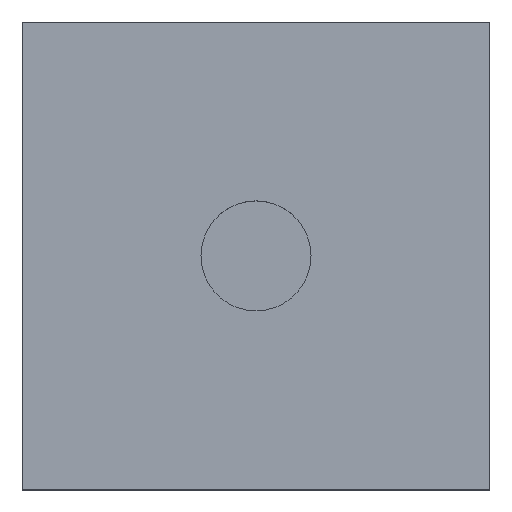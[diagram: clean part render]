
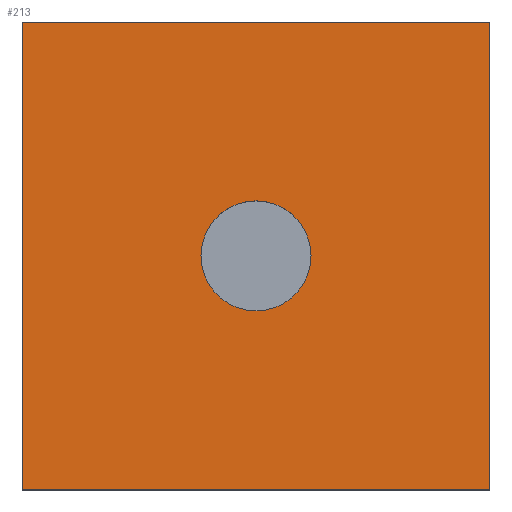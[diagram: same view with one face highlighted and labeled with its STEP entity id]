
A CAD part, top view. The second image highlights one B-rep face of the part: STEP entity #213.
In plain terms, the highlighted planar face has unit normal (0, 0, 1).
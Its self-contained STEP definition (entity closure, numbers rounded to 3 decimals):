
#24 = VERTEX_POINT('',#25);
#25 = CARTESIAN_POINT('',(-4.25,-4.25,3.));
#32 = PLANE('',#33);
#33 = AXIS2_PLACEMENT_3D('',#34,#35,#36);
#34 = CARTESIAN_POINT('',(-4.25,-4.25,0.));
#35 = DIRECTION('',(1.,0.,-0.));
#36 = DIRECTION('',(0.,0.,1.));
#44 = PLANE('',#45);
#45 = AXIS2_PLACEMENT_3D('',#46,#47,#48);
#46 = CARTESIAN_POINT('',(-4.25,-4.25,0.));
#47 = DIRECTION('',(-0.,1.,0.));
#48 = DIRECTION('',(0.,0.,1.));
#85 = VERTEX_POINT('',#86);
#86 = CARTESIAN_POINT('',(-4.25,4.25,3.));
#100 = PLANE('',#101);
#101 = AXIS2_PLACEMENT_3D('',#102,#103,#104);
#102 = CARTESIAN_POINT('',(-4.25,4.25,0.));
#103 = DIRECTION('',(-0.,1.,0.));
#104 = DIRECTION('',(0.,0.,1.));
#112 = EDGE_CURVE('',#24,#85,#113,.T.);
#113 = SURFACE_CURVE('',#114,(#118,#125),.PCURVE_S1.);
#114 = LINE('',#115,#116);
#115 = CARTESIAN_POINT('',(-4.25,-4.25,3.));
#116 = VECTOR('',#117,1.);
#117 = DIRECTION('',(-0.,1.,0.));
#118 = PCURVE('',#32,#119);
#119 = DEFINITIONAL_REPRESENTATION('',(#120),#124);
#120 = LINE('',#121,#122);
#121 = CARTESIAN_POINT('',(3.,0.));
#122 = VECTOR('',#123,1.);
#123 = DIRECTION('',(0.,-1.));
#124 = ( GEOMETRIC_REPRESENTATION_CONTEXT(2) 
PARAMETRIC_REPRESENTATION_CONTEXT() REPRESENTATION_CONTEXT('2D SPACE',''
  ) );
#125 = PCURVE('',#126,#131);
#126 = PLANE('',#127);
#127 = AXIS2_PLACEMENT_3D('',#128,#129,#130);
#128 = CARTESIAN_POINT('',(-4.25,-4.25,3.));
#129 = DIRECTION('',(0.,0.,1.));
#130 = DIRECTION('',(1.,0.,-0.));
#131 = DEFINITIONAL_REPRESENTATION('',(#132),#136);
#132 = LINE('',#133,#134);
#133 = CARTESIAN_POINT('',(0.,0.));
#134 = VECTOR('',#135,1.);
#135 = DIRECTION('',(0.,1.));
#136 = ( GEOMETRIC_REPRESENTATION_CONTEXT(2) 
PARAMETRIC_REPRESENTATION_CONTEXT() REPRESENTATION_CONTEXT('2D SPACE',''
  ) );
#165 = EDGE_CURVE('',#24,#166,#168,.T.);
#166 = VERTEX_POINT('',#167);
#167 = CARTESIAN_POINT('',(4.25,-4.25,3.));
#168 = SURFACE_CURVE('',#169,(#173,#180),.PCURVE_S1.);
#169 = LINE('',#170,#171);
#170 = CARTESIAN_POINT('',(-4.25,-4.25,3.));
#171 = VECTOR('',#172,1.);
#172 = DIRECTION('',(1.,0.,-0.));
#173 = PCURVE('',#44,#174);
#174 = DEFINITIONAL_REPRESENTATION('',(#175),#179);
#175 = LINE('',#176,#177);
#176 = CARTESIAN_POINT('',(3.,0.));
#177 = VECTOR('',#178,1.);
#178 = DIRECTION('',(0.,1.));
#179 = ( GEOMETRIC_REPRESENTATION_CONTEXT(2) 
PARAMETRIC_REPRESENTATION_CONTEXT() REPRESENTATION_CONTEXT('2D SPACE',''
  ) );
#180 = PCURVE('',#126,#181);
#181 = DEFINITIONAL_REPRESENTATION('',(#182),#186);
#182 = LINE('',#183,#184);
#183 = CARTESIAN_POINT('',(0.,0.));
#184 = VECTOR('',#185,1.);
#185 = DIRECTION('',(1.,0.));
#186 = ( GEOMETRIC_REPRESENTATION_CONTEXT(2) 
PARAMETRIC_REPRESENTATION_CONTEXT() REPRESENTATION_CONTEXT('2D SPACE',''
  ) );
#202 = PLANE('',#203);
#203 = AXIS2_PLACEMENT_3D('',#204,#205,#206);
#204 = CARTESIAN_POINT('',(4.25,-4.25,0.));
#205 = DIRECTION('',(1.,0.,-0.));
#206 = DIRECTION('',(0.,0.,1.));
#213 = ADVANCED_FACE('',(#214,#262),#126,.T.);
#214 = FACE_BOUND('',#215,.T.);
#215 = EDGE_LOOP('',(#216,#217,#218,#241));
#216 = ORIENTED_EDGE('',*,*,#112,.F.);
#217 = ORIENTED_EDGE('',*,*,#165,.T.);
#218 = ORIENTED_EDGE('',*,*,#219,.T.);
#219 = EDGE_CURVE('',#166,#220,#222,.T.);
#220 = VERTEX_POINT('',#221);
#221 = CARTESIAN_POINT('',(4.25,4.25,3.));
#222 = SURFACE_CURVE('',#223,(#227,#234),.PCURVE_S1.);
#223 = LINE('',#224,#225);
#224 = CARTESIAN_POINT('',(4.25,-4.25,3.));
#225 = VECTOR('',#226,1.);
#226 = DIRECTION('',(-0.,1.,0.));
#227 = PCURVE('',#126,#228);
#228 = DEFINITIONAL_REPRESENTATION('',(#229),#233);
#229 = LINE('',#230,#231);
#230 = CARTESIAN_POINT('',(8.5,0.));
#231 = VECTOR('',#232,1.);
#232 = DIRECTION('',(0.,1.));
#233 = ( GEOMETRIC_REPRESENTATION_CONTEXT(2) 
PARAMETRIC_REPRESENTATION_CONTEXT() REPRESENTATION_CONTEXT('2D SPACE',''
  ) );
#234 = PCURVE('',#202,#235);
#235 = DEFINITIONAL_REPRESENTATION('',(#236),#240);
#236 = LINE('',#237,#238);
#237 = CARTESIAN_POINT('',(3.,0.));
#238 = VECTOR('',#239,1.);
#239 = DIRECTION('',(0.,-1.));
#240 = ( GEOMETRIC_REPRESENTATION_CONTEXT(2) 
PARAMETRIC_REPRESENTATION_CONTEXT() REPRESENTATION_CONTEXT('2D SPACE',''
  ) );
#241 = ORIENTED_EDGE('',*,*,#242,.F.);
#242 = EDGE_CURVE('',#85,#220,#243,.T.);
#243 = SURFACE_CURVE('',#244,(#248,#255),.PCURVE_S1.);
#244 = LINE('',#245,#246);
#245 = CARTESIAN_POINT('',(-4.25,4.25,3.));
#246 = VECTOR('',#247,1.);
#247 = DIRECTION('',(1.,0.,-0.));
#248 = PCURVE('',#126,#249);
#249 = DEFINITIONAL_REPRESENTATION('',(#250),#254);
#250 = LINE('',#251,#252);
#251 = CARTESIAN_POINT('',(0.,8.5));
#252 = VECTOR('',#253,1.);
#253 = DIRECTION('',(1.,0.));
#254 = ( GEOMETRIC_REPRESENTATION_CONTEXT(2) 
PARAMETRIC_REPRESENTATION_CONTEXT() REPRESENTATION_CONTEXT('2D SPACE',''
  ) );
#255 = PCURVE('',#100,#256);
#256 = DEFINITIONAL_REPRESENTATION('',(#257),#261);
#257 = LINE('',#258,#259);
#258 = CARTESIAN_POINT('',(3.,0.));
#259 = VECTOR('',#260,1.);
#260 = DIRECTION('',(0.,1.));
#261 = ( GEOMETRIC_REPRESENTATION_CONTEXT(2) 
PARAMETRIC_REPRESENTATION_CONTEXT() REPRESENTATION_CONTEXT('2D SPACE',''
  ) );
#262 = FACE_BOUND('',#263,.T.);
#263 = EDGE_LOOP('',(#264));
#264 = ORIENTED_EDGE('',*,*,#265,.F.);
#265 = EDGE_CURVE('',#266,#266,#268,.T.);
#266 = VERTEX_POINT('',#267);
#267 = CARTESIAN_POINT('',(1.,0.,3.));
#268 = SURFACE_CURVE('',#269,(#274,#281),.PCURVE_S1.);
#269 = CIRCLE('',#270,1.);
#270 = AXIS2_PLACEMENT_3D('',#271,#272,#273);
#271 = CARTESIAN_POINT('',(0.,0.,3.));
#272 = DIRECTION('',(0.,0.,1.));
#273 = DIRECTION('',(1.,0.,-0.));
#274 = PCURVE('',#126,#275);
#275 = DEFINITIONAL_REPRESENTATION('',(#276),#280);
#276 = CIRCLE('',#277,1.);
#277 = AXIS2_PLACEMENT_2D('',#278,#279);
#278 = CARTESIAN_POINT('',(4.25,4.25));
#279 = DIRECTION('',(1.,0.));
#280 = ( GEOMETRIC_REPRESENTATION_CONTEXT(2) 
PARAMETRIC_REPRESENTATION_CONTEXT() REPRESENTATION_CONTEXT('2D SPACE',''
  ) );
#281 = PCURVE('',#282,#287);
#282 = CYLINDRICAL_SURFACE('',#283,1.);
#283 = AXIS2_PLACEMENT_3D('',#284,#285,#286);
#284 = CARTESIAN_POINT('',(0.,0.,2.1));
#285 = DIRECTION('',(0.,0.,1.));
#286 = DIRECTION('',(1.,0.,-0.));
#287 = DEFINITIONAL_REPRESENTATION('',(#288),#292);
#288 = LINE('',#289,#290);
#289 = CARTESIAN_POINT('',(0.,0.9));
#290 = VECTOR('',#291,1.);
#291 = DIRECTION('',(1.,0.));
#292 = ( GEOMETRIC_REPRESENTATION_CONTEXT(2) 
PARAMETRIC_REPRESENTATION_CONTEXT() REPRESENTATION_CONTEXT('2D SPACE',''
  ) );
